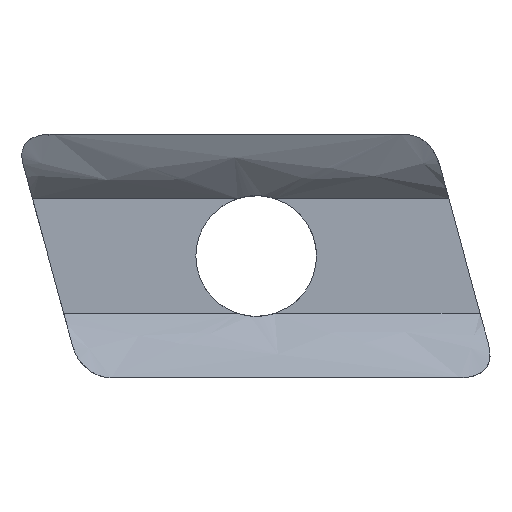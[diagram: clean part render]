
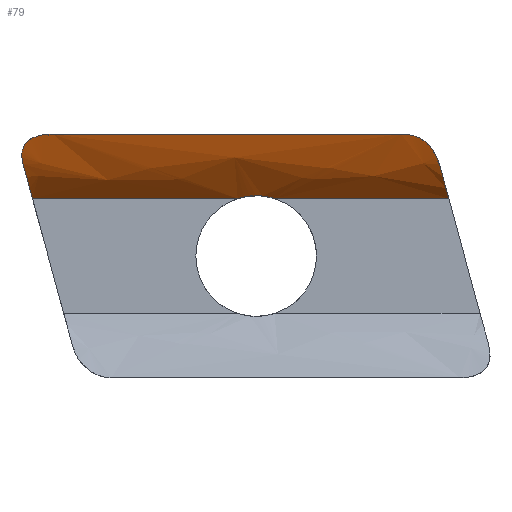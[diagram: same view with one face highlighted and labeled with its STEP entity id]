
A CAD part, top view. The second image highlights one B-rep face of the part: STEP entity #79.
In plain terms, the highlighted free-form (B-spline) face has degree [2, 1] with [3, 2] control points.
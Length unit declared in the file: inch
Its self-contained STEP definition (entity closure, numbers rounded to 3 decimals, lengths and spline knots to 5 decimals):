
#79=ADVANCED_FACE('',(#166),#167,.T.);
#166=FACE_OUTER_BOUND('',#296,.T.);
#167=B_SPLINE_SURFACE_WITH_KNOTS('',2,1,((#297,#298),(#299,#300),(#301,#302)),.UNSPECIFIED.,.F.,.F.,.F.,(3,3),(2,2),(0.0,1.0),(0.0,0.79659),.UNSPECIFIED.);
#296=EDGE_LOOP('',(#1957,#1958,#1959,#1960,#1961,#1962,#1963,#1964,#1965,#1966,#1967));
#297=CARTESIAN_POINT('',(-0.14909,0.40601,0.14228));
#298=CARTESIAN_POINT('',(0.6475,0.40601,0.14228));
#299=CARTESIAN_POINT('',(-0.14909,0.3412,0.11913));
#300=CARTESIAN_POINT('',(0.6475,0.3412,0.11913));
#301=CARTESIAN_POINT('',(-0.14909,0.29872,0.0666));
#302=CARTESIAN_POINT('',(0.6475,0.29872,0.0666));
#1957=ORIENTED_EDGE('',*,*,#2076,.T.);
#1958=ORIENTED_EDGE('',*,*,#2140,.T.);
#1959=ORIENTED_EDGE('',*,*,#2097,.T.);
#1960=ORIENTED_EDGE('',*,*,#2146,.T.);
#1961=ORIENTED_EDGE('',*,*,#2147,.T.);
#1962=ORIENTED_EDGE('',*,*,#2148,.F.);
#1963=ORIENTED_EDGE('',*,*,#2149,.T.);
#1964=ORIENTED_EDGE('',*,*,#2150,.T.);
#1965=ORIENTED_EDGE('',*,*,#2107,.T.);
#1966=ORIENTED_EDGE('',*,*,#2142,.T.);
#1967=ORIENTED_EDGE('',*,*,#2151,.T.);
#2076=EDGE_CURVE('',#2189,#2187,#2190,.T.);
#2097=EDGE_CURVE('',#2228,#2226,#2229,.T.);
#2107=EDGE_CURVE('',#2243,#2244,#2245,.T.);
#2140=EDGE_CURVE('',#2187,#2228,#2293,.T.);
#2142=EDGE_CURVE('',#2244,#2295,#2296,.T.);
#2146=EDGE_CURVE('',#2226,#2300,#2301,.T.);
#2147=EDGE_CURVE('',#2300,#2302,#2303,.T.);
#2148=EDGE_CURVE('',#2304,#2302,#2305,.T.);
#2149=EDGE_CURVE('',#2304,#2306,#2307,.T.);
#2150=EDGE_CURVE('',#2306,#2243,#2308,.T.);
#2151=EDGE_CURVE('',#2295,#2189,#2309,.T.);
#2187=VERTEX_POINT('',#2361);
#2189=VERTEX_POINT('',#2364);
#2190=B_SPLINE_CURVE_WITH_KNOTS('',3,(#2365,#2366,#2367,#2368,#2369,#2370),.UNSPECIFIED.,.F.,.F.,(4,2,4),(0.0,0.02415,0.04822),.UNSPECIFIED.);
#2226=VERTEX_POINT('',#2475);
#2228=VERTEX_POINT('',#2478);
#2229=LINE('',#2479,#2480);
#2243=VERTEX_POINT('',#2535);
#2244=VERTEX_POINT('',#2536);
#2245=B_SPLINE_CURVE_WITH_KNOTS('',3,(#2537,#2538,#2539,#2540),.UNSPECIFIED.,.F.,.F.,(4,4),(0.0,0.01259),.UNSPECIFIED.);
#2293=B_SPLINE_CURVE_WITH_KNOTS('',3,(#2750,#2751,#2752,#2753,#2754,#2755),.UNSPECIFIED.,.F.,.F.,(4,2,4),(0.0,0.02404,0.0482),.UNSPECIFIED.);
#2295=VERTEX_POINT('',#2757);
#2296=B_SPLINE_CURVE_WITH_KNOTS('',3,(#2758,#2759,#2760,#2761),.UNSPECIFIED.,.F.,.F.,(4,4),(-0.08801,-0.0),.UNSPECIFIED.);
#2300=VERTEX_POINT('',#2769);
#2301=B_SPLINE_CURVE_WITH_KNOTS('',3,(#2770,#2771,#2772,#2773,#2774,#2775),.UNSPECIFIED.,.F.,.F.,(4,2,4),(-0.13499,-0.06887,-0.0),.UNSPECIFIED.);
#2302=VERTEX_POINT('',#2776);
#2303=B_SPLINE_CURVE_WITH_KNOTS('',3,(#2777,#2778,#2779,#2780,#2781,#2782,#2783,#2784,#2785,#2786),.UNSPECIFIED.,.F.,.F.,(4,2,2,2,4),(0.0,0.03512,0.05833,0.07586,0.09353),.UNSPECIFIED.);
#2304=VERTEX_POINT('',#2787);
#2305=LINE('',#2788,#2789);
#2306=VERTEX_POINT('',#2790);
#2307=B_SPLINE_CURVE_WITH_KNOTS('',3,(#2791,#2792,#2793,#2794,#2795,#2796,#2797,#2798,#2799,#2800),.UNSPECIFIED.,.F.,.F.,(4,2,2,2,4),(0.0,0.02752,0.04298,0.05524,0.06948),.UNSPECIFIED.);
#2308=B_SPLINE_CURVE_WITH_KNOTS('',2,(#2801,#2802,#2803),.UNSPECIFIED.,.F.,.F.,(3,3),(0.0,1.0),.UNSPECIFIED.);
#2309=LINE('',#2804,#2805);
#2361=CARTESIAN_POINT('',(0.24126,0.30351,0.07234));
#2364=CARTESIAN_POINT('',(0.21052,0.29872,0.0666));
#2365=CARTESIAN_POINT('',(0.21052,0.29872,0.0666));
#2366=CARTESIAN_POINT('',(0.21528,0.30025,0.06849));
#2367=CARTESIAN_POINT('',(0.22028,0.30146,0.06993));
#2368=CARTESIAN_POINT('',(0.23065,0.30309,0.07186));
#2369=CARTESIAN_POINT('',(0.23593,0.30351,0.07234));
#2370=CARTESIAN_POINT('',(0.24126,0.30351,0.07234));
#2475=CARTESIAN_POINT('',(0.56238,0.29872,0.0666));
#2478=CARTESIAN_POINT('',(0.272,0.29872,0.0666));
#2479=CARTESIAN_POINT('',(-0.14909,0.29872,0.0666));
#2480=VECTOR('',#3083,1.);
#2535=CARTESIAN_POINT('',(-0.14909,0.3667,0.12439));
#2536=CARTESIAN_POINT('',(-0.14722,0.35598,0.11795));
#2537=CARTESIAN_POINT('',(-0.14909,0.3667,0.12439));
#2538=CARTESIAN_POINT('',(-0.14879,0.36305,0.12233));
#2539=CARTESIAN_POINT('',(-0.14811,0.35944,0.12016));
#2540=CARTESIAN_POINT('',(-0.14722,0.35598,0.11795));
#2750=CARTESIAN_POINT('',(0.24126,0.30351,0.07234));
#2751=CARTESIAN_POINT('',(0.24658,0.30351,0.07234));
#2752=CARTESIAN_POINT('',(0.25186,0.30309,0.07186));
#2753=CARTESIAN_POINT('',(0.26223,0.30146,0.06993));
#2754=CARTESIAN_POINT('',(0.26723,0.30025,0.06849));
#2755=CARTESIAN_POINT('',(0.272,0.29872,0.0666));
#2757=CARTESIAN_POINT('',(-0.13162,0.29872,0.0666));
#2758=CARTESIAN_POINT('',(-0.14909,0.36284,0.12216));
#2759=CARTESIAN_POINT('',(-0.14239,0.33825,0.10764));
#2760=CARTESIAN_POINT('',(-0.13657,0.3169,0.08908));
#2761=CARTESIAN_POINT('',(-0.13162,0.29872,0.0666));
#2769=CARTESIAN_POINT('',(0.54678,0.35598,0.11795));
#2770=CARTESIAN_POINT('',(0.56238,0.29872,0.0666));
#2771=CARTESIAN_POINT('',(0.55866,0.31238,0.08349));
#2772=CARTESIAN_POINT('',(0.55443,0.32791,0.09827));
#2773=CARTESIAN_POINT('',(0.5447,0.36362,0.12385));
#2774=CARTESIAN_POINT('',(0.53933,0.38333,0.13401));
#2775=CARTESIAN_POINT('',(0.53363,0.40422,0.14164));
#2776=CARTESIAN_POINT('',(0.48289,0.40601,0.14228));
#2777=CARTESIAN_POINT('',(0.54678,0.35598,0.11795));
#2778=CARTESIAN_POINT('',(0.54377,0.36553,0.12403));
#2779=CARTESIAN_POINT('',(0.5394,0.37531,0.12923));
#2780=CARTESIAN_POINT('',(0.52807,0.38943,0.1358));
#2781=CARTESIAN_POINT('',(0.52264,0.39428,0.13781));
#2782=CARTESIAN_POINT('',(0.51116,0.4008,0.14038));
#2783=CARTESIAN_POINT('',(0.50584,0.40282,0.14112));
#2784=CARTESIAN_POINT('',(0.49456,0.40544,0.14208));
#2785=CARTESIAN_POINT('',(0.48873,0.40601,0.14228));
#2786=CARTESIAN_POINT('',(0.48289,0.40601,0.14228));
#2787=CARTESIAN_POINT('',(-0.09722,0.40601,0.14228));
#2788=CARTESIAN_POINT('',(-0.14909,0.40601,0.14228));
#2789=VECTOR('',#3100,1.);
#2790=CARTESIAN_POINT('',(-0.14909,0.37421,0.12846));
#2791=CARTESIAN_POINT('',(-0.09722,0.40601,0.14228));
#2792=CARTESIAN_POINT('',(-0.1064,0.40601,0.14228));
#2793=CARTESIAN_POINT('',(-0.11627,0.4051,0.14197));
#2794=CARTESIAN_POINT('',(-0.12978,0.40065,0.14031));
#2795=CARTESIAN_POINT('',(-0.13439,0.3984,0.13945));
#2796=CARTESIAN_POINT('',(-0.14133,0.39275,0.13715));
#2797=CARTESIAN_POINT('',(-0.14377,0.38982,0.13592));
#2798=CARTESIAN_POINT('',(-0.14765,0.38259,0.13265));
#2799=CARTESIAN_POINT('',(-0.14871,0.37841,0.13064));
#2800=CARTESIAN_POINT('',(-0.14909,0.37421,0.12846));
#2801=CARTESIAN_POINT('',(-0.14909,0.40601,0.14228));
#2802=CARTESIAN_POINT('',(-0.14909,0.3412,0.11913));
#2803=CARTESIAN_POINT('',(-0.14909,0.29872,0.0666));
#2804=CARTESIAN_POINT('',(-0.14909,0.29872,0.0666));
#2805=VECTOR('',#3101,1.);
#3083=DIRECTION('',(1.0,0.,0.0));
#3100=DIRECTION('',(1.0,0.,0.0));
#3101=DIRECTION('',(1.0,0.,0.0));
